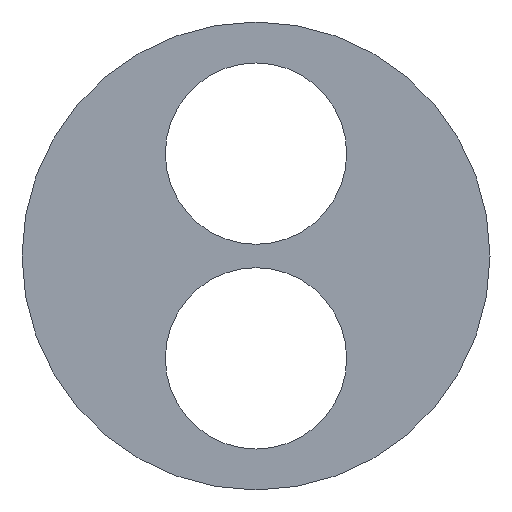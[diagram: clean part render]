
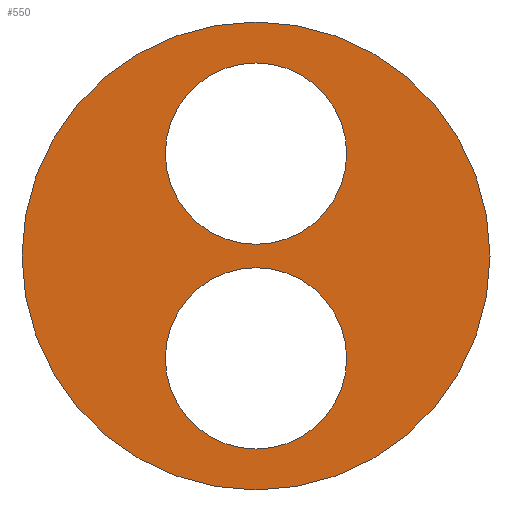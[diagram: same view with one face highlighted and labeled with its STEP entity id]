
A CAD part, left-side view. The second image highlights one B-rep face of the part: STEP entity #550.
In plain terms, the highlighted planar face has unit normal (-1, 0, 0).
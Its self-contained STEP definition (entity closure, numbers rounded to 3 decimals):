
#10=CARTESIAN_POINT('',(-157.788,148.29,0.));
#20=DIRECTION('',(-1.,0.,0.));
#30=DIRECTION('',(0.,1.,0.));
#40=AXIS2_PLACEMENT_3D('',#10,#20,#30);
#50=PLANE('',#40);
#60=CARTESIAN_POINT('',(-157.788,144.29,0.));
#70=DIRECTION('',(1.,0.,0.));
#80=DIRECTION('',(0.,1.,0.));
#90=AXIS2_PLACEMENT_3D('',#60,#70,#80);
#100=CIRCLE('',#90,8.);
#110=CARTESIAN_POINT('',(-157.788,152.29,0.));
#120=VERTEX_POINT('',#110);
#130=CARTESIAN_POINT('',(-157.788,136.29,
0.));
#140=VERTEX_POINT('',#130);
#150=EDGE_CURVE('',#120,#140,#100,.T.);
#160=ORIENTED_EDGE('',*,*,#150,.F.);
#170=EDGE_CURVE('',#140,#120,#100,.T.);
#180=ORIENTED_EDGE('',*,*,#170,.F.);
#190=EDGE_LOOP('',(#180,#160));
#200=FACE_OUTER_BOUND('',#190,.T.);
#210=CARTESIAN_POINT('',(-157.788,144.29,3.5));
#220=DIRECTION('',(1.,0.,0.));
#230=DIRECTION('',(0.,1.,0.));
#240=AXIS2_PLACEMENT_3D('',#210,#220,#230);
#250=CIRCLE('',#240,3.1);
#260=CARTESIAN_POINT('',(-157.788,147.39,3.5));
#270=VERTEX_POINT('',#260);
#280=CARTESIAN_POINT('',(-157.788,141.19,3.5));
#290=VERTEX_POINT('',#280);
#300=EDGE_CURVE('',#270,#290,#250,.T.);
#310=ORIENTED_EDGE('',*,*,#300,.T.);
#320=CARTESIAN_POINT('',(-157.788,144.29,
0.4));
#330=VERTEX_POINT('',#320);
#340=EDGE_CURVE('',#330,#270,#250,.T.);
#350=ORIENTED_EDGE('',*,*,#340,.T.);
#360=EDGE_CURVE('',#290,#330,#250,.T.);
#370=ORIENTED_EDGE('',*,*,#360,.T.);
#380=EDGE_LOOP('',(#370,#350,#310));
#390=FACE_BOUND('',#380,.T.);
#400=CARTESIAN_POINT('',(-157.788,144.29,-3.5));
#410=DIRECTION('',(1.,0.,0.));
#420=DIRECTION('',(0.,1.,0.));
#430=AXIS2_PLACEMENT_3D('',#400,#410,#420);
#440=CIRCLE('',#430,3.1);
#450=CARTESIAN_POINT('',(-157.788,147.39,-3.5));
#460=VERTEX_POINT('',#450);
#470=CARTESIAN_POINT('',(-157.788,141.19,-3.5));
#480=VERTEX_POINT('',#470);
#490=EDGE_CURVE('',#460,#480,#440,.T.);
#500=ORIENTED_EDGE('',*,*,#490,.T.);
#510=EDGE_CURVE('',#480,#460,#440,.T.);
#520=ORIENTED_EDGE('',*,*,#510,.T.);
#530=EDGE_LOOP('',(#520,#500));
#540=FACE_BOUND('',#530,.T.);
#550=ADVANCED_FACE('',(#200,#390,#540),#50,.T.);
